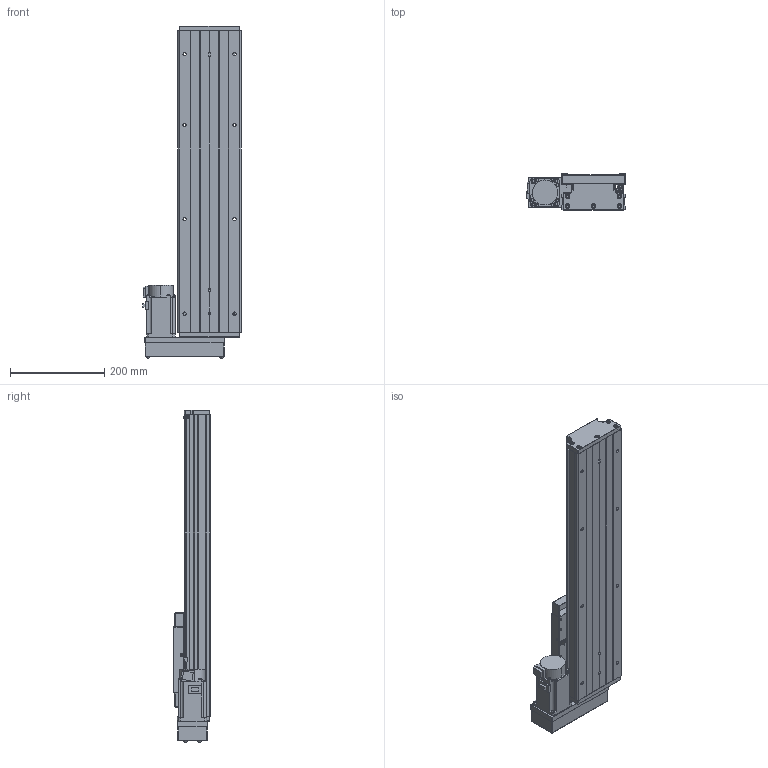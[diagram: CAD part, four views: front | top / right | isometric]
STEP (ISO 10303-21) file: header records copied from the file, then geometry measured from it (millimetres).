
FILE_DESCRIPTION (( 'STEP AP203' ), '1' );
FILE_NAME ('GTH14-400-BL-M40-C4.step', '2023-06-30T08:39:44', ( '微软用户' ), ( '微软中国' ), 'SwSTEP 2.0', 'SolidWorks 2020', '' );
FILE_SCHEMA (( 'CONFIG_CONTROL_DESIGN' ));
Length unit declared in the file: millimetre
Products named in the file (19): GTH14-005; GBT77-2000 M3×3; GTH14-033; GB1155-6X6; GTH14-031; GTH14-400-BL-M40-C4; GBT70.1 M5℅16; GBT 70.2-M3¡Á5_M3¡Á6; CTHA60-017; す晦芛蹟隊 M3℅5; GTH14-001_400; EE_SX911P_R; HG-KN43J-S100; GTH14-002_GTH14-002; CTHA60-016; GBT 70.2-M4¡Á35_M4¡Á35; GTH14-004; GBT 70.1-M3℅5; GTH14-015-2_CTHA86-015-2
Assembly tree (58 placements, depth 2):
  GTH14-400-BL-M40-C4
    GTH14-001_400
    GTH14-002_GTH14-002
    GTH14-004
    GTH14-005
    GB1155-6X6  x2
    GBT70.1 M5℅16  x10
    CTHA60-017  x3
    EE_SX911P_R  x3
    CTHA60-016  x2
    GBT 70.1-M3℅5  x6
    GBT77-2000 M3×3  x6
    GTH14-031
    GBT 70.2-M3¡Á5_M3¡Á6  x8
    す晦芛蹟隊 M3℅5  x6
    HG-KN43J-S100
    GBT 70.2-M4¡Á35_M4¡Á35  x4
    GTH14-015-2_CTHA86-015-2
    GTH14-033
Bounding box: 209.3 x 78 x 704.2 mm (x, y, z)
Volume: 4085728 mm3; surface area: 725442.2 mm2
Topology: 61 solids, 61 shells, 2443 faces, 5809 edges, 3578 vertices
Faces by surface type: plane 1305, cylinder 648, cone 314, torus 124, sphere 32, bspline 20
Entity records: 43850 total; most frequent: CARTESIAN_POINT 9807, DIRECTION 6429, ORIENTED_EDGE 6308, EDGE_CURVE 3154, AXIS2_PLACEMENT_3D 2192, VECTOR 2045, LINE 2045, VERTEX_POINT 1996
